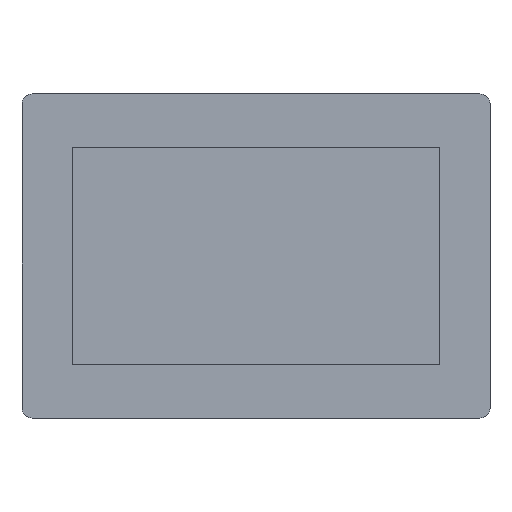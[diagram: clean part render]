
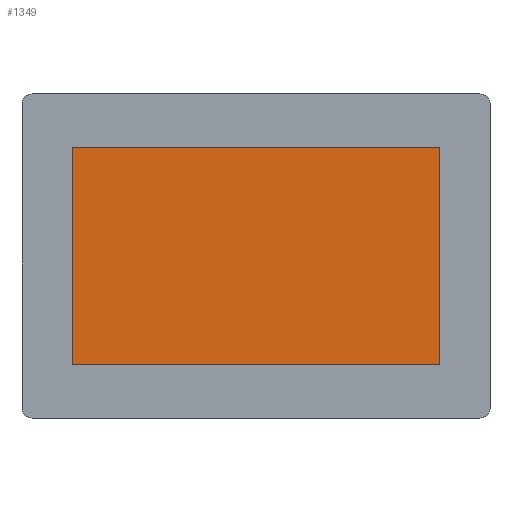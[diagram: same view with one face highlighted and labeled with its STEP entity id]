
A CAD part, top view. The second image highlights one B-rep face of the part: STEP entity #1349.
In plain terms, the highlighted planar face has unit normal (0, 0, 1).
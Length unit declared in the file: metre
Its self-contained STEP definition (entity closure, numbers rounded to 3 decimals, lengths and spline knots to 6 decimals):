
#196=ORIENTED_EDGE('',*,*,#501,.F.);
#197=ORIENTED_EDGE('',*,*,#504,.T.);
#198=ORIENTED_EDGE('',*,*,#506,.T.);
#199=ORIENTED_EDGE('',*,*,#507,.F.);
#501=EDGE_CURVE('',#660,#661,#789,.T.);
#504=EDGE_CURVE('',#660,#662,#792,.T.);
#506=EDGE_CURVE('',#662,#663,#794,.T.);
#507=EDGE_CURVE('',#661,#663,#795,.T.);
#660=VERTEX_POINT('',#2066);
#661=VERTEX_POINT('',#2068);
#662=VERTEX_POINT('',#2072);
#663=VERTEX_POINT('',#2076);
#789=LINE('',#2067,#913);
#792=LINE('',#2073,#916);
#794=LINE('',#2077,#918);
#795=LINE('',#2079,#919);
#913=VECTOR('',#1671,1.);
#916=VECTOR('',#1676,1.);
#918=VECTOR('',#1680,1.);
#919=VECTOR('',#1683,1.);
#1026=EDGE_LOOP('',(#196,#197,#198,#199));
#1160=FACE_BOUND('',#1026,.T.);
#1285=PLANE('',#1473);
#1349=ADVANCED_FACE('',(#1160),#1285,.T.);
#1473=AXIS2_PLACEMENT_3D('',#2080,#1684,#1685);
#1671=DIRECTION('',(0.,-1.,0.));
#1676=DIRECTION('',(-1.,0.,0.));
#1680=DIRECTION('',(0.,-1.,0.));
#1683=DIRECTION('',(-1.,0.,0.));
#1684=DIRECTION('',(0.,0.,1.));
#1685=DIRECTION('',(1.,0.,0.));
#2066=CARTESIAN_POINT('',(0.055,0.0326,0.00179));
#2067=CARTESIAN_POINT('',(0.055,0.,0.00179));
#2068=CARTESIAN_POINT('',(0.055,-0.0326,0.00179));
#2072=CARTESIAN_POINT('',(-0.055,0.0326,0.00179));
#2073=CARTESIAN_POINT('',(0.,0.0326,0.00179));
#2076=CARTESIAN_POINT('',(-0.055,-0.0326,0.00179));
#2077=CARTESIAN_POINT('',(-0.055,0.,0.00179));
#2079=CARTESIAN_POINT('',(0.,-0.0326,0.00179));
#2080=CARTESIAN_POINT('',(0.,0.,0.00179));
